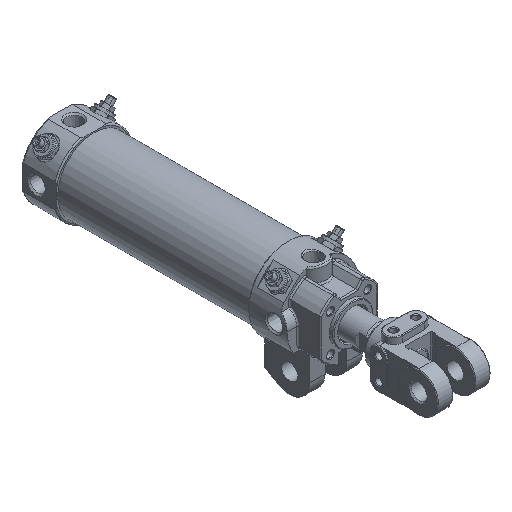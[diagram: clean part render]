
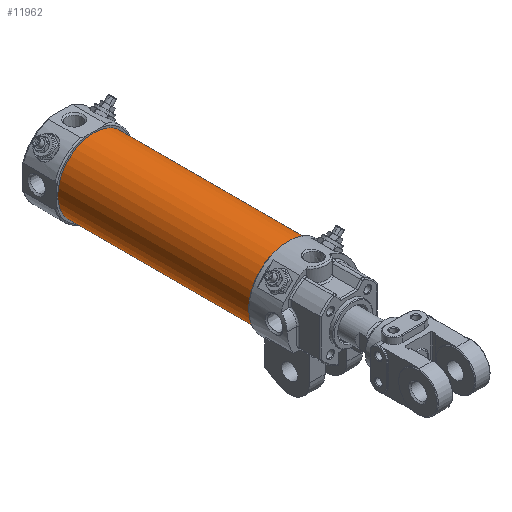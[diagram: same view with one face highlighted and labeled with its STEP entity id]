
A CAD part, isometric view. The second image highlights one B-rep face of the part: STEP entity #11962.
In plain terms, the highlighted cylindrical face has radius 27.5 mm (diameter 55 mm), a full revolution.
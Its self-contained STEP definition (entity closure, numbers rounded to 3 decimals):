
#4051=CARTESIAN_POINT('',(27.5,196.0,0.));
#4052=VERTEX_POINT('',#4051);
#4053=CARTESIAN_POINT('',(0.,196.0,0.));
#4054=DIRECTION('',(0.0,-1.0,0.0));
#4055=DIRECTION('',(-1.0,0.0,0.0));
#4056=AXIS2_PLACEMENT_3D('',#4053,#4054,#4055);
#4057=CIRCLE('',#4056,27.5);
#4058=EDGE_CURVE('',#4052,#4052,#4057,.T.);
#11939=CARTESIAN_POINT('',(27.5,50.,0.));
#11940=VERTEX_POINT('',#11939);
#11941=CARTESIAN_POINT('',(0.,50.,0.));
#11942=DIRECTION('',(0.0,-1.0,0.0));
#11943=DIRECTION('',(-1.0,0.0,0.0));
#11944=AXIS2_PLACEMENT_3D('',#11941,#11942,#11943);
#11945=CIRCLE('',#11944,27.5);
#11946=EDGE_CURVE('',#11940,#11940,#11945,.T.);
#11951=CARTESIAN_POINT('',(0.,50.,0.));
#11952=DIRECTION('',(0.0,1.0,0.));
#11953=DIRECTION('',(-1.0,0.0,0.0));
#11954=AXIS2_PLACEMENT_3D('',#11951,#11952,#11953);
#11955=CYLINDRICAL_SURFACE('',#11954,27.5);
#11956=ORIENTED_EDGE('',*,*,#4058,.T.);
#11957=EDGE_LOOP('',(#11956));
#11958=FACE_OUTER_BOUND('',#11957,.T.);
#11959=ORIENTED_EDGE('',*,*,#11946,.F.);
#11960=EDGE_LOOP('',(#11959));
#11961=FACE_BOUND('',#11960,.T.);
#11962=ADVANCED_FACE('',(#11958,#11961),#11955,.T.);
